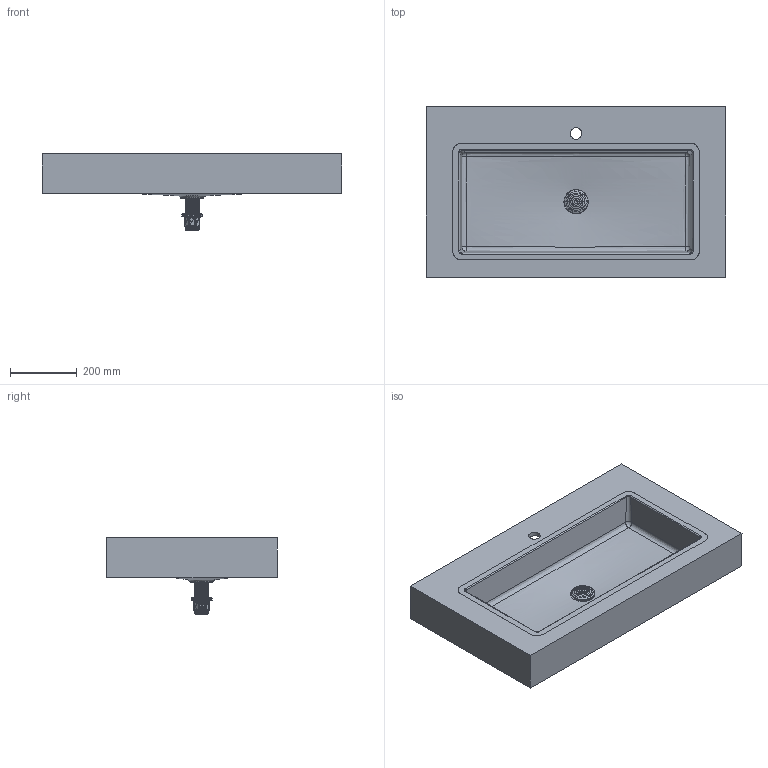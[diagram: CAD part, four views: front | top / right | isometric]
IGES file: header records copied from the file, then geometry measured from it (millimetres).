
Start section: Data from Parasolid IGES Translator 19.0.9, Copyright(c) 2006 Siemens PL M Software. All Rights Reserved.
Global section: file name: noorth-top-H 12 D 51,3 W 90_6547.igs; native system: By Siemens PLM Incorporated; preprocessor: XPlus GENERIC/IGES 19.0.9; author: Noname; organization: Noname; date: 20200603.090445; units: metre
Bounding box: 900 x 512 x 230.13 mm (x, y, z)
Volume: 10081732.4 mm3; surface area: 1822091.6 mm2
Topology: 2 solids, 2 shells, 11704 faces, 35060 edges, 34975 vertices
Faces by surface type: extrusion 11618, bspline 48, plane 29, cylinder 6, cone 3
Full cylindrical faces by diameter (mm): 34.9 x1, 45 x1
